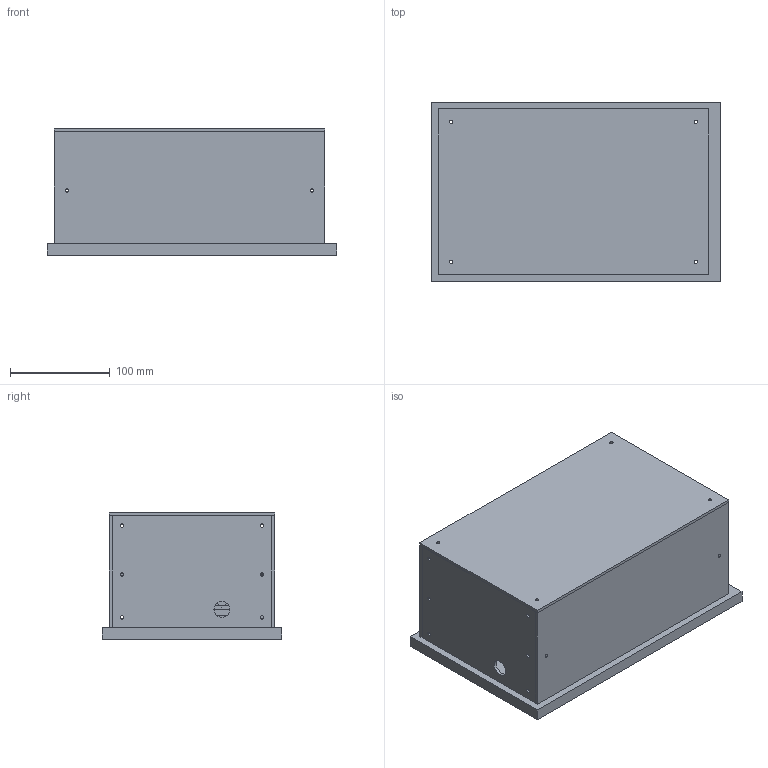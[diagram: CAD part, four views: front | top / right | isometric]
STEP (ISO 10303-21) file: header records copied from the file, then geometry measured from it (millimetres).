
FILE_DESCRIPTION(('FreeCAD Model'),'2;1');
FILE_NAME('public-brake.step','2026-11-14T00:00:00',(''),(''),'Open CASCADE','FreeCAD','');
FILE_SCHEMA(('AUTOMOTIVE_DESIGN { 1 0 10303 214 1 1 1 1 }'));
Length unit declared in the file: millimetre
Products named in the file (83): PrototypeR1; BASE; SHAFT; BEARING_BLOCK_1; BEARING_1; BEARING_CAP_1_L; BEARING_CAP_1_R; BEARING_BLOCK_2; BEARING_2; BEARING_CAP_2_L; BEARING_CAP_2_R; SHAFT_COLLAR_L; SHAFT_COLLAR_R; THRUST_SHIM_L; THRUST_SHIM_R; ROTOR_SCREW_1; ROTOR_WASHER_1; ROTOR_SCREW_2; ROTOR_WASHER_2; ROTOR_SCREW_3; ROTOR_WASHER_3; ROTOR_SCREW_4; ROTOR_WASHER_4; ROTOR_SCREW_5; ROTOR_WASHER_5; ROTOR_SCREW_6; ROTOR_WASHER_6; HUB; ROTOR; COUPLING; MOTOR_SHAFT_REFERENCE; MOTOR_REFERENCE; MOTOR_CARRIAGE; MOTOR_V_SADDLE_1; MOTOR_V_SADDLE_2; CALIPER_PEDESTAL; PIVOT_BRIDGE; PIVOT_SPACER_1; PIVOT_SPACER_2; PIVOT_BUSH_L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
Assembly tree (82 placements, depth 2):
  PrototypeR1
    BASE
    SHAFT
    BEARING_BLOCK_1
    BEARING_1
    BEARING_CAP_1_L
    BEARING_CAP_1_R
    BEARING_BLOCK_2
    BEARING_2
    BEARING_CAP_2_L
    BEARING_CAP_2_R
    SHAFT_COLLAR_L
    SHAFT_COLLAR_R
    THRUST_SHIM_L
    THRUST_SHIM_R
    ROTOR_SCREW_1
    ROTOR_WASHER_1
    ROTOR_SCREW_2
    ROTOR_WASHER_2
    ROTOR_SCREW_3
    ROTOR_WASHER_3
    ROTOR_SCREW_4
    ROTOR_WASHER_4
    ROTOR_SCREW_5
    ROTOR_WASHER_5
    ROTOR_SCREW_6
    ROTOR_WASHER_6
    HUB
    ROTOR
    COUPLING
    MOTOR_SHAFT_REFERENCE
    MOTOR_REFERENCE
    MOTOR_CARRIAGE
    MOTOR_V_SADDLE_1
    MOTOR_V_SADDLE_2
    CALIPER_PEDESTAL
    PIVOT_BRIDGE
    PIVOT_SPACER_1
    PIVOT_SPACER_2
    PIVOT_BUSH_L
    PIVOT_BUSH_R
    PIVOT_CENTER_WASHER
    LEVER_L
    PAD_BACK_L
    PAD_L
    PAD_SPACER_L
    LEVER_R
    PAD_BACK_R
    PAD_R
    PAD_SPACER_R
    SOLENOID_CRADLE
    SOLENOID_CAP
    SOLENOID_THERMAL_PAD
    SOLENOID_REFERENCE
    PLUNGER_REFERENCE
    SOLENOID_LINK
    LINK_SPACER
    LINK_PIN_1
    LINK_PIN_2
    RETURN_SPRING_ENVELOPE
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Bounding box: 290 x 180 x 127 mm (x, y, z)
Volume: 1478836.6 mm3; surface area: 586316.7 mm2
Topology: 82 solids, 82 shells, 826 faces, 1891 edges, 1264 vertices
Faces by surface type: plane 551, cylinder 275
Full cylindrical faces by diameter (mm): 0.8 x2, 2.5 x1, 2.8 x2, 2.9 x4, 3 x16, 3.1 x2, 3.2 x92, 3.4 x65, 4 x1, 5 x4, 5.1 x3, 5.5 x8, 6 x15, 6.1 x2, 6.6 x2, 7 x2, 8 x12, 8.5 x2, 12 x3, 12.1 x1, 14 x4, 16 x1, 17.4 x4, 18.9 x4, 19 x2, 19.05 x2, 25 x1, 25.4 x1, 55 x1, 60 x1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
Entity records: 25876 total; most frequent: CARTESIAN_POINT 4508, DIRECTION 4275, ORIENTED_EDGE 3782, EDGE_CURVE 1891, AXIS2_PLACEMENT_3D 1484, LINE 1307, VECTOR 1307, VERTEX_POINT 1264
